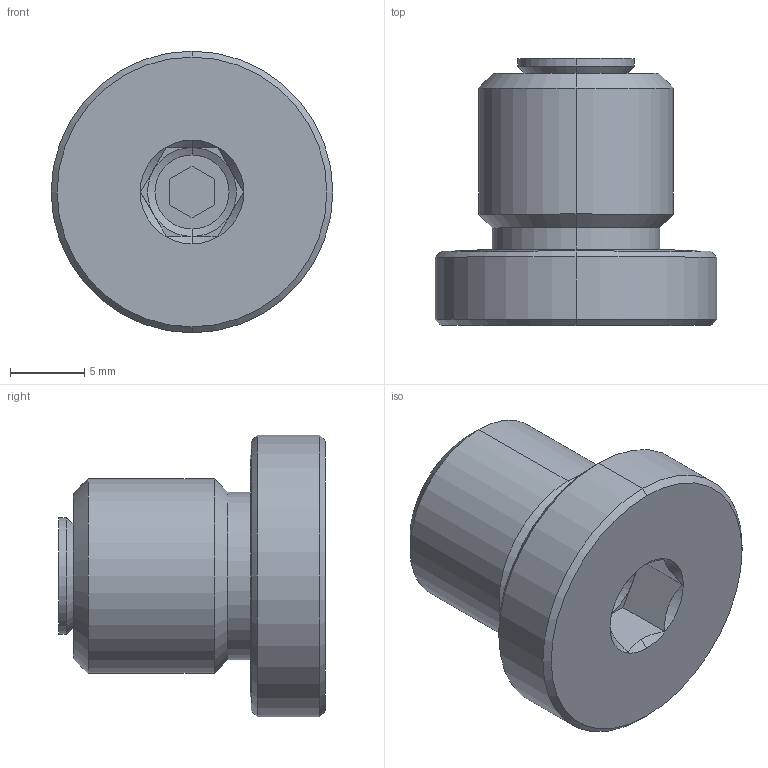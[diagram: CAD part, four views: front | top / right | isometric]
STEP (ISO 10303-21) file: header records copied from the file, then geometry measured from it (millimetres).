
FILE_DESCRIPTION (( 'STEP AP214' ), '1' );
FILE_NAME ('IVS-002.STEP', '2017-03-20T08:04:48', ( '' ), ( '' ), 'SwSTEP 2.0', 'SolidWorks 2014', '' );
FILE_SCHEMA (( 'AUTOMOTIVE_DESIGN' ));
Length unit declared in the file: millimetre
Products named in the file (1): IVS-002
Bounding box: 19 x 18 x 19 mm (x, y, z)
Volume: 2712.6 mm3; surface area: 1642.4 mm2
Topology: 1 solids, 1 shells, 58 faces, 124 edges, 74 vertices
Faces by surface type: plane 26, cylinder 16, cone 16
Entity records: 1733 total; most frequent: CARTESIAN_POINT 325, DIRECTION 282, ORIENTED_EDGE 248, EDGE_CURVE 124, AXIS2_PLACEMENT_3D 107, VERTEX_POINT 74, VECTOR 68, LINE 68
